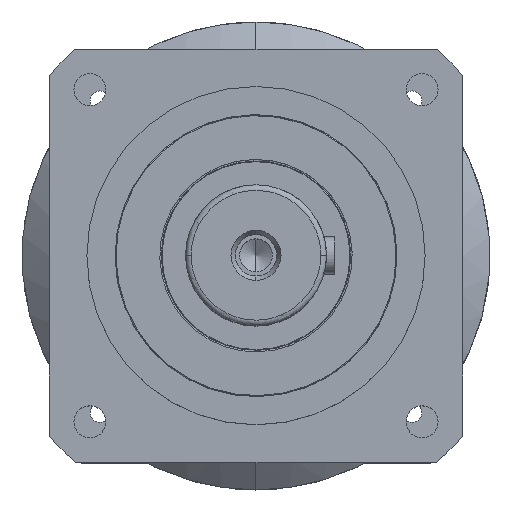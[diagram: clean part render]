
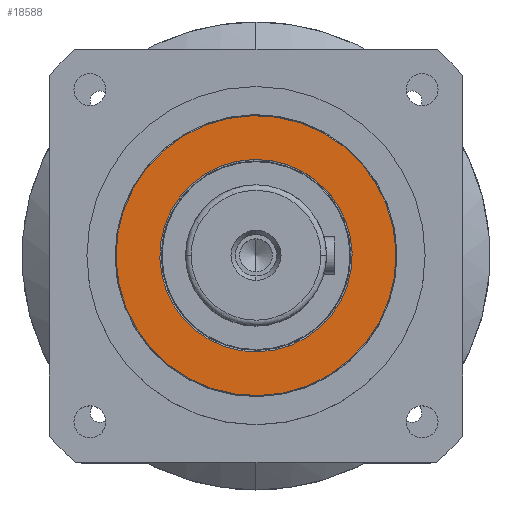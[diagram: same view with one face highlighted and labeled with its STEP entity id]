
A CAD part, top view. The second image highlights one B-rep face of the part: STEP entity #18588.
In plain terms, the highlighted planar face has unit normal (0, 0, 1) as drawn and (0, -1, 0) by its records, which use the part's own axes.
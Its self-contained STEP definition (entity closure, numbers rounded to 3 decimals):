
#1874 = DIRECTION ( 'NONE',  ( 0., -1., 0. ) ) ;
#2035 = EDGE_LOOP ( 'NONE', ( #29159, #32341 ) ) ;
#2585 = CARTESIAN_POINT ( 'NONE',  ( 0., 0., 74.5 ) ) ;
#2611 = DIRECTION ( 'NONE',  ( 0., 0., 1. ) ) ;
#4469 = VERTEX_POINT ( 'NONE', #37185 ) ;
#6727 = AXIS2_PLACEMENT_3D ( 'NONE', #28575, #10053, #31660 ) ;
#7282 = EDGE_CURVE ( 'NONE', #4469, #35953, #31840, .T. ) ;
#8757 = DIRECTION ( 'NONE',  ( 0., 0., 1. ) ) ;
#8796 = DIRECTION ( 'NONE',  ( 0., 1., 0. ) ) ;
#8847 = CARTESIAN_POINT ( 'NONE',  ( 0., 0., 0. ) ) ;
#10053 = DIRECTION ( 'NONE',  ( 0., -1., 0. ) ) ;
#10666 = EDGE_CURVE ( 'NONE', #35953, #4469, #19153, .T. ) ;
#12603 = PLANE ( 'NONE',  #32369 ) ;
#14858 = FACE_BOUND ( 'NONE', #2035, .T. ) ;
#15769 = DIRECTION ( 'NONE',  ( 0., 0., -1. ) ) ;
#17061 = CARTESIAN_POINT ( 'NONE',  ( 0., 0., 51.2 ) ) ;
#17357 = AXIS2_PLACEMENT_3D ( 'NONE', #20481, #1874, #23625 ) ;
#18326 = CARTESIAN_POINT ( 'NONE',  ( 0., 0., 74.5 ) ) ;
#18588 = ADVANCED_FACE ( 'NONE', ( #14858, #31267 ), #12603, .T. ) ;
#18706 = EDGE_CURVE ( 'NONE', #28089, #37717, #36591, .T. ) ;
#19153 = CIRCLE ( 'NONE', #36321, 51.2 ) ;
#20481 = CARTESIAN_POINT ( 'NONE',  ( 0., 0., 0. ) ) ;
#21224 = DIRECTION ( 'NONE',  ( 0., 1., 0. ) ) ;
#23625 = DIRECTION ( 'NONE',  ( 0., 0., 1. ) ) ;
#25493 = ORIENTED_EDGE ( 'NONE', *, *, #18706, .T. ) ;
#26689 = AXIS2_PLACEMENT_3D ( 'NONE', #8847, #8796, #8757 ) ;
#26908 = CARTESIAN_POINT ( 'NONE',  ( 0., 0., -74.5 ) ) ;
#28089 = VERTEX_POINT ( 'NONE', #26908 ) ;
#28575 = CARTESIAN_POINT ( 'NONE',  ( 0., 0., 0. ) ) ;
#28644 = CIRCLE ( 'NONE', #17357, 74.5 ) ;
#29159 = ORIENTED_EDGE ( 'NONE', *, *, #10666, .T. ) ;
#31267 = FACE_OUTER_BOUND ( 'NONE', #37874, .T. ) ;
#31660 = DIRECTION ( 'NONE',  ( 0., 0., 1. ) ) ;
#31840 = CIRCLE ( 'NONE', #26689, 51.2 ) ;
#32143 = ORIENTED_EDGE ( 'NONE', *, *, #36827, .T. ) ;
#32341 = ORIENTED_EDGE ( 'NONE', *, *, #7282, .T. ) ;
#32369 = AXIS2_PLACEMENT_3D ( 'NONE', #2585, #34249, #15769 ) ;
#34249 = DIRECTION ( 'NONE',  ( 0., -1., 0. ) ) ;
#35953 = VERTEX_POINT ( 'NONE', #17061 ) ;
#36321 = AXIS2_PLACEMENT_3D ( 'NONE', #39588, #21224, #2611 ) ;
#36591 = CIRCLE ( 'NONE', #6727, 74.5 ) ;
#36827 = EDGE_CURVE ( 'NONE', #37717, #28089, #28644, .T. ) ;
#37185 = CARTESIAN_POINT ( 'NONE',  ( 0., 0., -51.2 ) ) ;
#37717 = VERTEX_POINT ( 'NONE', #18326 ) ;
#37874 = EDGE_LOOP ( 'NONE', ( #32143, #25493 ) ) ;
#39588 = CARTESIAN_POINT ( 'NONE',  ( 0., 0., 0. ) ) ;
